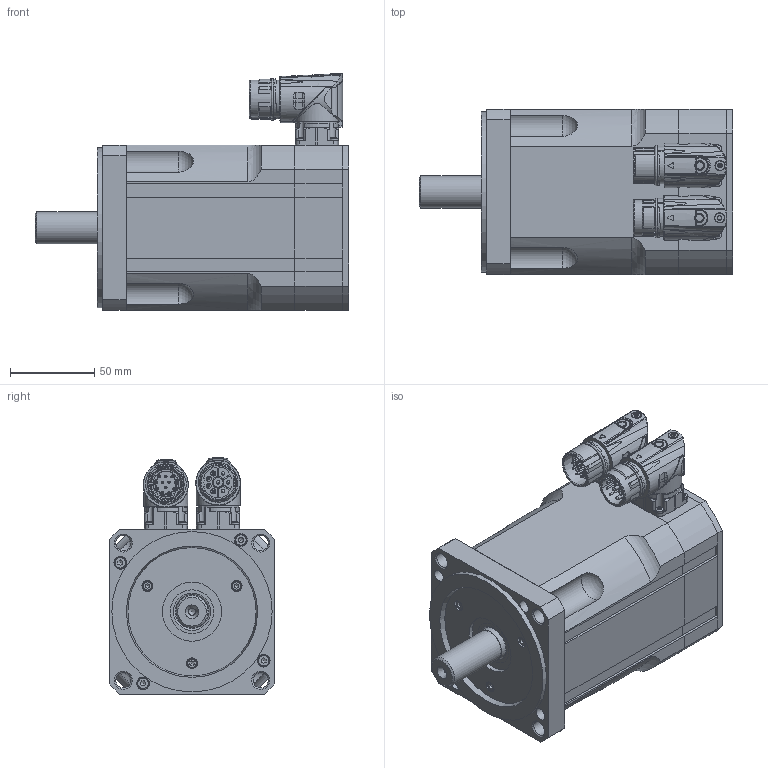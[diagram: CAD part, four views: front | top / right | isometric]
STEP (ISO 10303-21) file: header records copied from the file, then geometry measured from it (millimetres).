
FILE_DESCRIPTION(/* description */ (''),/* implementation_level */ '2;1');
FILE_NAME(/* name */ 'C:\PDF_output\T4000 00 Z_0260_S4_S1_8P_12P.stp',/* time_stamp */ '2021-07-13T13:08:34+02:00',/* author */ ('oslejsek'),/* organization */ (''),/* preprocessor_version */ 'ST-DEVELOPER v18.1',/* originating_system */ 'Autodesk Inventor 2021',/* authorisation */ '');
FILE_SCHEMA (('AUTOMOTIVE_DESIGN { 1 0 10303 214 3 1 1 }'));
Products named in the file (9): T4000 00 Z_0260_S4_S1_8P_12P; T4000 00 Z_front; T4000 00 Z_0260_rear; BED_0201_8-polig, Stift; Basis 2; Basis 11; AED_0201_12-polig, Stift; 124888; 127323
Assembly tree (8 placements, depth 3):
  T4000 00 Z_0260_S4_S1_8P_12P
    T4000 00 Z_front
    T4000 00 Z_0260_rear
    BED_0201_8-polig, Stift
      Basis 2
      Basis 11
    AED_0201_12-polig, Stift
      124888
      127323
Bounding box: 186 x 98 x 140.35 mm (x, y, z)
Volume: 1372196.6 mm3; surface area: 122866.3 mm2
Topology: 6 solids, 9 shells, 1837 faces, 4871 edges, 3100 vertices
Faces by surface type: cylinder 801, plane 531, bspline 256, cone 125, torus 86, sphere 38
Full cylindrical faces by diameter (mm): 1 x16, 1.18 x12, 1.2 x12, 1.3 x4, 2 x4, 2.013 x2, 2.208 x8, 2.4 x8, 2.5 x8, 2.7 x4, 3 x9, 3.1 x4, 3.2 x1, 3.3 x3, 3.95 x4, 4 x4, 4.134 x1, 4.3 x4, 4.5 x2, 5.5 x5, 5.8 x1, 5.9 x2, 6.5 x3, 6.8 x1, 7 x4, 7.5 x4, 8 x5, 8.5 x4, 9 x4, 15.2 x1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
Entity records: 72093 total; most frequent: CARTESIAN_POINT 24885, ORIENTED_EDGE 9638, DIRECTION 9513, EDGE_CURVE 4819, AXIS2_PLACEMENT_3D 3946, VERTEX_POINT 3100, CIRCLE 2130, EDGE_LOOP 2047
